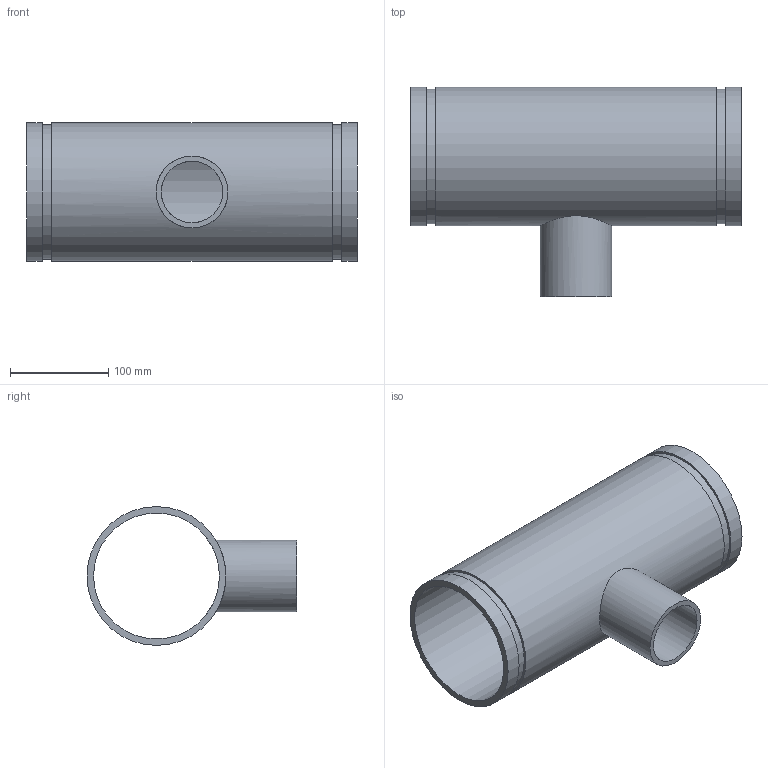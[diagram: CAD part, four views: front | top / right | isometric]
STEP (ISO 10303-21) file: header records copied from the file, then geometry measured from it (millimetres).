
FILE_DESCRIPTION(/* description */ ('VIC REDUCING TEE No 29T FFT (OGSxMPT)','CAx-IF Rec.Pracs.---Representation and Presentation of Product Manufacturing Information (PMI)---4.0---2014-10-13'),/* implementation_level */ '2;1');
FILE_NAME(/* name */ 'C:\Users\kkamble\AppData\Roaming\Autodesk\ApplicationPlugins\Back Up\Victaulic_IPS_Tee Reducing_No 29T FFT (OGSxMPT)\Victaulic_IPS_Tee Reducing_No 29T FFT (OGSxMPT)_05.0x02.5 (125x65).stp',/* time_stamp */ '2020-09-16T22:38:17+05:00',/* author */ ('CORINNE GRAY'),/* organization */ ('Victaulic'),/* preprocessor_version */ 'ST-DEVELOPER v17.2',/* originating_system */ 'Autodesk Inventor 2019',/* authorisation */ '');
FILE_SCHEMA (('AP242_MANAGED_MODEL_BASED_3D_ENGINEERING_MIM_LF { 1 0 10303 442 1 1 4 }'));
Length unit declared in the file: inch
Products named in the file (1): 29 FFT-05.0x02.5
Bounding box: 336.8 x 213.65 x 141.3 mm (x, y, z)
Volume: 979995.3 mm3; surface area: 321821.8 mm2
Topology: 1 solids, 1 shells, 15 faces, 32 edges, 24 vertices
Faces by surface type: cylinder 8, plane 7
Full cylindrical faces by diameter (mm): 62.713 x1, 73.025 x1, 128.194 x1, 137.033 x2, 141.3 x3
Entity records: 709 total; most frequent: CARTESIAN_POINT 221, DIRECTION 106, ORIENTED_EDGE 64, AXIS2_PLACEMENT_3D 49, EDGE_CURVE 32, EDGE_LOOP 24, VERTEX_POINT 24, CIRCLE 20
